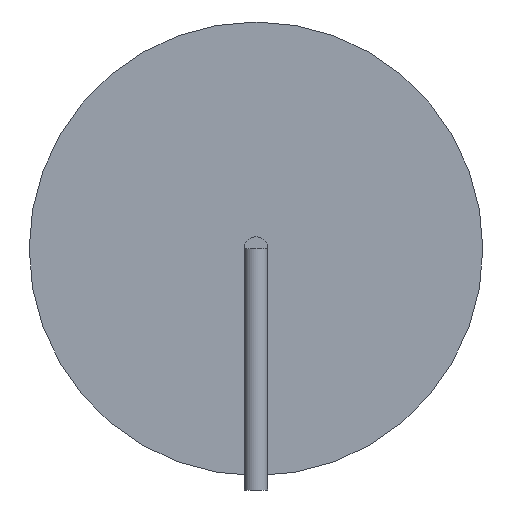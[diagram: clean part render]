
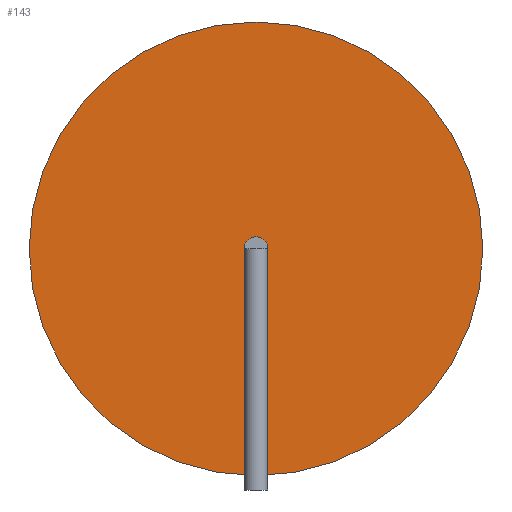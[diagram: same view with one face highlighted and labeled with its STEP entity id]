
A CAD part, left-side view. The second image highlights one B-rep face of the part: STEP entity #143.
In plain terms, the highlighted planar face has unit normal (-1, 0, 0).
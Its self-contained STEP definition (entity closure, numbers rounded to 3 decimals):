
#65 = CYLINDRICAL_SURFACE('',#66,9.5);
#66 = AXIS2_PLACEMENT_3D('',#67,#68,#69);
#67 = CARTESIAN_POINT('',(4.25,0.,10.1));
#68 = DIRECTION('',(1.,0.,0.));
#69 = DIRECTION('',(-0.,0.,1.));
#90 = VERTEX_POINT('',#91);
#91 = CARTESIAN_POINT('',(4.25,0.,19.6));
#112 = EDGE_CURVE('',#90,#90,#113,.T.);
#113 = SURFACE_CURVE('',#114,(#119,#126),.PCURVE_S1.);
#114 = CIRCLE('',#115,9.5);
#115 = AXIS2_PLACEMENT_3D('',#116,#117,#118);
#116 = CARTESIAN_POINT('',(4.25,0.,10.1));
#117 = DIRECTION('',(1.,0.,0.));
#118 = DIRECTION('',(-0.,0.,1.));
#119 = PCURVE('',#65,#120);
#120 = DEFINITIONAL_REPRESENTATION('',(#121),#125);
#121 = LINE('',#122,#123);
#122 = CARTESIAN_POINT('',(0.,0.));
#123 = VECTOR('',#124,1.);
#124 = DIRECTION('',(1.,0.));
#125 = ( GEOMETRIC_REPRESENTATION_CONTEXT(2) 
PARAMETRIC_REPRESENTATION_CONTEXT() REPRESENTATION_CONTEXT('2D SPACE',''
  ) );
#126 = PCURVE('',#127,#132);
#127 = PLANE('',#128);
#128 = AXIS2_PLACEMENT_3D('',#129,#130,#131);
#129 = CARTESIAN_POINT('',(4.25,0.,10.1));
#130 = DIRECTION('',(1.,0.,0.));
#131 = DIRECTION('',(-0.,0.,1.));
#132 = DEFINITIONAL_REPRESENTATION('',(#133),#137);
#133 = CIRCLE('',#134,9.5);
#134 = AXIS2_PLACEMENT_2D('',#135,#136);
#135 = CARTESIAN_POINT('',(0.,0.));
#136 = DIRECTION('',(1.,0.));
#137 = ( GEOMETRIC_REPRESENTATION_CONTEXT(2) 
PARAMETRIC_REPRESENTATION_CONTEXT() REPRESENTATION_CONTEXT('2D SPACE',''
  ) );
#143 = ADVANCED_FACE('',(#144),#127,.F.);
#144 = FACE_BOUND('',#145,.T.);
#145 = EDGE_LOOP('',(#146));
#146 = ORIENTED_EDGE('',*,*,#112,.F.);
